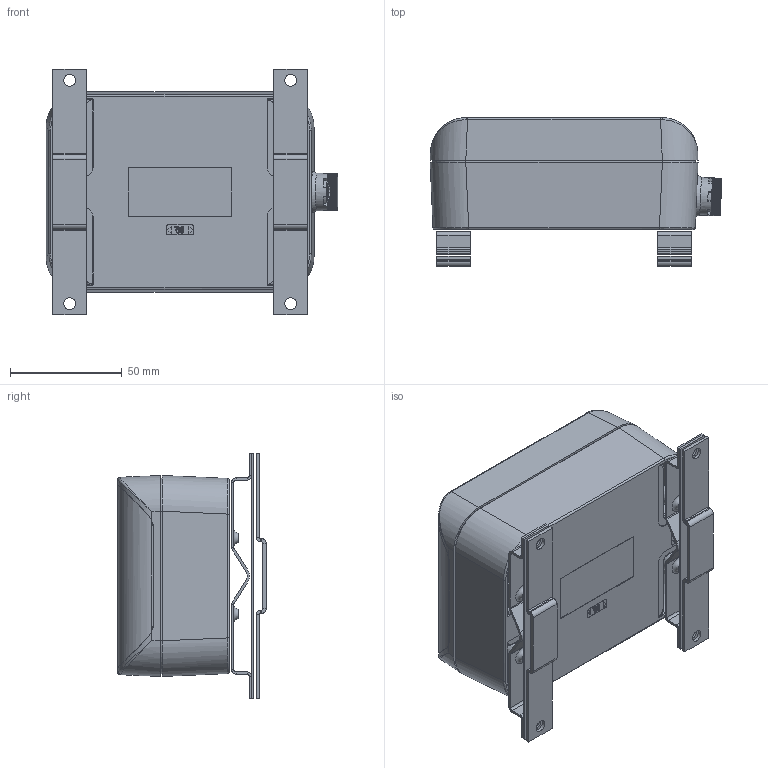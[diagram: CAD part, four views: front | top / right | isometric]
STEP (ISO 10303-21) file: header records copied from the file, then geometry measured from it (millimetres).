
FILE_DESCRIPTION(/* description */ (''),/* implementation_level */ '2;1');
FILE_NAME(/* name */ 'K:\PROJEKTY ROZPRACOVANÉ\MODELY DO KATALOGU\PBI-7\3D - STEP\PBI-7.stp',/* time_stamp */ '2019-11-26T09:44:10+01:00',/* author */ ('M Koliska'),/* organization */ (''),/* preprocessor_version */ 'ST-DEVELOPER v18',/* originating_system */ 'Autodesk Inventor 2020',/* authorisation */ '');
FILE_SCHEMA (('AUTOMOTIVE_DESIGN { 1 0 10303 214 3 1 1 }'));
Products named in the file (14): PBI-7; DNO; SMART-BOX (120x90x50); VÍKO; TĚSNĚNÍ; KRYTKA; DRŽÁK DRÁTU; ŠTÍTEK; POLEP; PRŮZOR; DRŽÁK PÁSU; DRŽÁK PÁSU 1; DRŽÁK PÁSU 2; PRVEK PRO VYROVNÁNÍ TLAKU DAE-K-S
Assembly tree (16 placements, depth 3):
  PBI-7
    DNO
    SMART-BOX (120x90x50)
      VÍKO
      TĚSNĚNÍ
      KRYTKA  x2
    DRŽÁK DRÁTU  x2
    ŠTÍTEK
      POLEP
      PRŮZOR
    DRŽÁK PÁSU  x2
      DRŽÁK PÁSU 1
      DRŽÁK PÁSU 2
    PRVEK PRO VYROVNÁNÍ TLAKU DAE-K-S
Bounding box: 130.69 x 66.5 x 110 mm (x, y, z)
Volume: 147526.5 mm3; surface area: 148994.6 mm2
Topology: 14 solids, 14 shells, 2833 faces, 7618 edges, 4883 vertices
Faces by surface type: plane 1319, cylinder 510, bspline 495, cone 418, torus 87, sphere 4
Full cylindrical faces by diameter (mm): 0.5 x1, 2.5 x10, 3 x10, 3.2 x12, 3.242 x4, 4 x4, 4.5 x4, 5.2 x4, 5.3 x12, 5.5 x1, 6 x12, 6.5 x1, 17 x1
Entity records: 102370 total; most frequent: CARTESIAN_POINT 37657, ORIENTED_EDGE 14202, DIRECTION 12322, EDGE_CURVE 7101, VERTEX_POINT 4570, AXIS2_PLACEMENT_3D 4164, LINE 3994, VECTOR 3994
